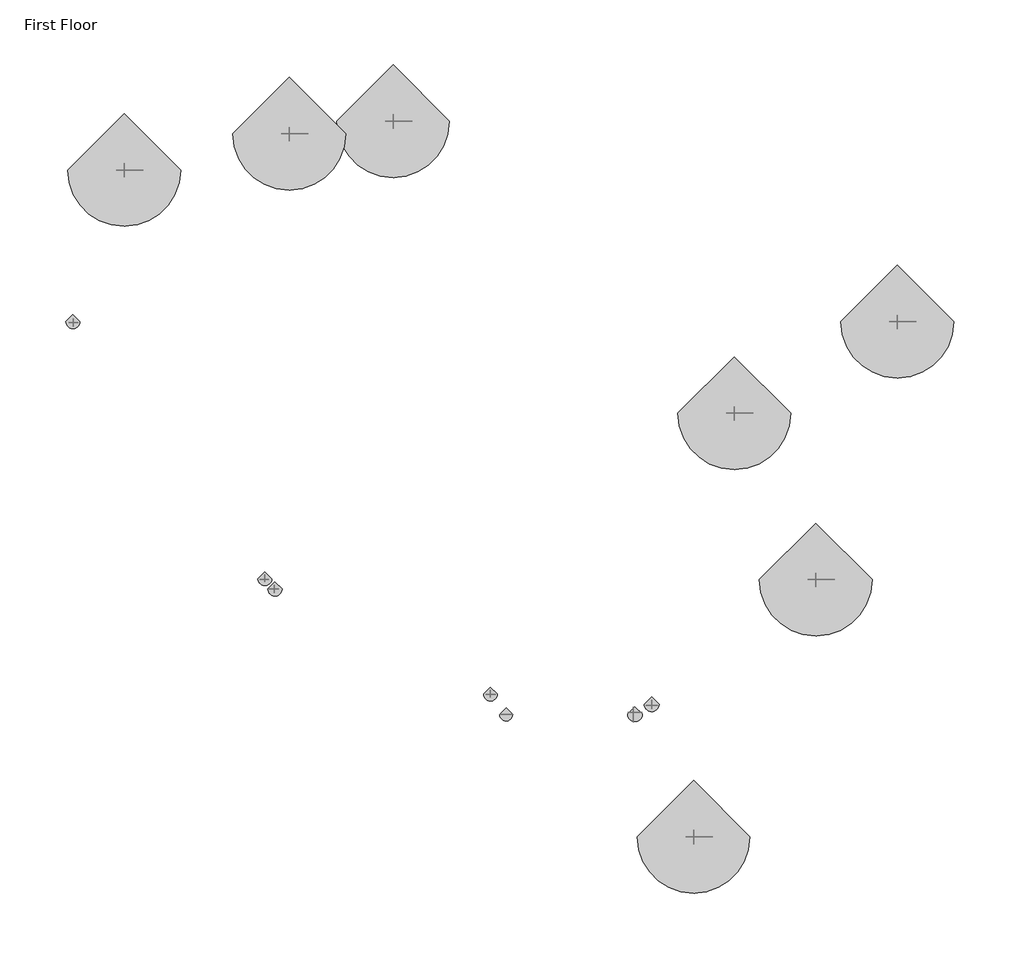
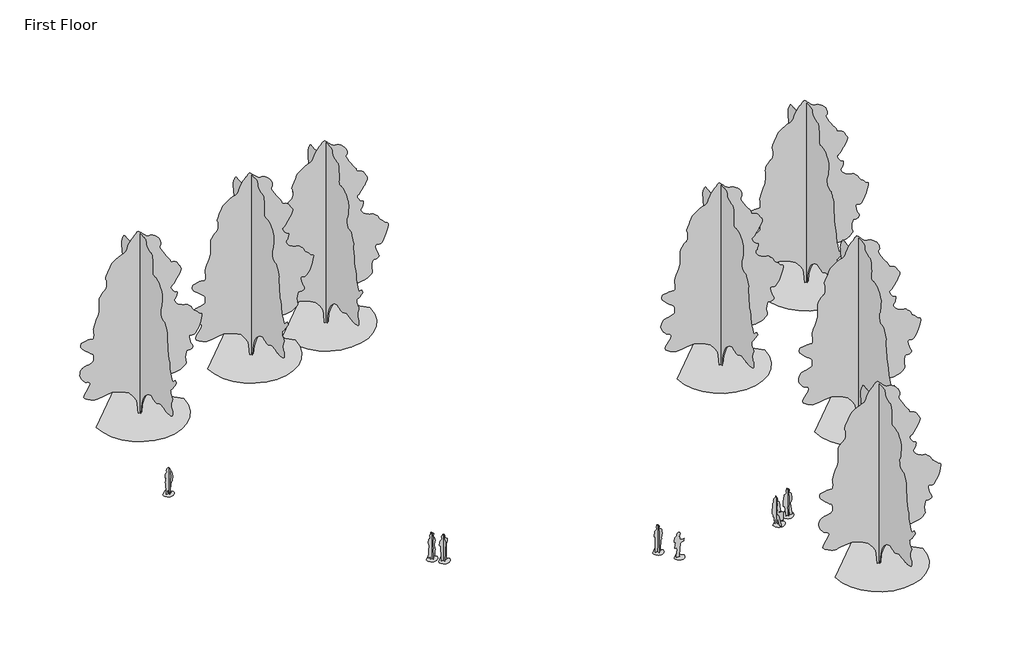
# One storey, incomplete: 7 geographic elements, 7 proxies.
"""IFC4 building model written with IfcOpenShell, lengths in millimetres."""

from ifc_helpers import new_model, si_unit, origin, place, context, project, spatial, transform, mapped, element, save
from components import m_rpc_female_878ef173, m_rpc_female_2c6db5d7, m_rpc_female_2a7e0e44, m_rpc_female_7b1a36b3, m_rpc_male_e00c4429, m_rpc_male_6f5007d1, m_rpc_male_b993872a, m_rpc_tree_deciduous_lombardy_poplar_12_2_meters_1b309f58

model = new_model("IFC4")

# Units and contexts
model_context = context("Model", 3, world=origin())
ifc_project = project(units=[si_unit("LENGTHUNIT", "METRE", prefix="MILLI")], contexts=[model_context])

# Site, building, storey
site = spatial("IfcSite", under=ifc_project)
building = spatial("IfcBuilding", under=site)
storey = spatial("IfcBuildingStorey", under=building, Name="First Floor", Elevation=0.0)

# Proxies
placement = place(None, origin())
m_rpc_female_shape = m_rpc_female_878ef173(model_context)
element("IfcBuildingElementProxy", 1, Name="M_RPC Female : Cathy", ObjectType="M_RPC Female : Cathy", at=placement, inside=storey, context=model_context, shape_type="MappedRepresentation", body=[
    mapped(m_rpc_female_shape, transform((8481.5823524, -11988.1148653, 0.0), x_axis=(1.0, 0.0, 0.0), y_axis=(0.0, 1.0, 0.0), z_axis=(0.0, 0.0, 1.0))),
])
m_rpc_female_2_shape = m_rpc_female_2c6db5d7(model_context)
element("IfcBuildingElementProxy", 2, Name="M_RPC Female : Tina", ObjectType="M_RPC Female : Tina", at=placement, inside=storey, context=model_context, shape_type="MappedRepresentation", body=[
    mapped(m_rpc_female_2_shape, transform((-9676.5223518, -5320.1148653, 0.0), x_axis=(1.0, 0.0, 0.0), y_axis=(0.0, 1.0, 0.0), z_axis=(0.0, 0.0, 1.0))),
])
m_rpc_female_3_shape = m_rpc_female_2a7e0e44(model_context)
element("IfcBuildingElementProxy", 3, Name="M_RPC Female : YinYin", ObjectType="M_RPC Female : YinYin", at=placement, inside=storey, context=model_context, shape_type="MappedRepresentation", body=[
    mapped(m_rpc_female_3_shape, transform((-19094.4724393, 7299.8851347, 0.0), x_axis=(1.0, 0.0, 0.0), y_axis=(0.0, 1.0, 0.0), z_axis=(0.0, 0.0, 1.0))),
])
m_rpc_female_4_shape = m_rpc_female_7b1a36b3(model_context)
element("IfcBuildingElementProxy", 4, Name="M_RPC Female : Lisa", ObjectType="M_RPC Female : Lisa", at=placement, inside=storey, context=model_context, shape_type="MappedRepresentation", body=[
    mapped(m_rpc_female_4_shape, transform((2161.2861855, -11988.1148653, 0.0), x_axis=(1.0, 0.0, 0.0), y_axis=(0.0, 1.0, 0.0), z_axis=(0.0, 0.0, 1.0))),
])
m_rpc_male_shape = m_rpc_male_e00c4429(model_context)
element("IfcBuildingElementProxy", 5, Name="M_RPC Male : Dwayne", ObjectType="M_RPC Male : Dwayne", at=placement, inside=storey, context=model_context, shape_type="MappedRepresentation", body=[
    mapped(m_rpc_male_shape, transform((1405.1255493, -10988.1148653, 0.0), x_axis=(1.0, 0.0, 0.0), y_axis=(0.0, 1.0, 0.0), z_axis=(0.0, 0.0, 1.0))),
])
m_rpc_male_2_shape = m_rpc_male_6f5007d1(model_context)
element("IfcBuildingElementProxy", 6, Name="M_RPC Male : Alex", ObjectType="M_RPC Male : Alex", at=placement, inside=storey, context=model_context, shape_type="MappedRepresentation", body=[
    mapped(m_rpc_male_2_shape, transform((9302.803305, -11488.1148653, 0.0), x_axis=(1.0, 0.0, 0.0), y_axis=(0.0, 1.0, 0.0), z_axis=(0.0, 0.0, 1.0))),
])
m_rpc_male_3_shape = m_rpc_male_b993872a(model_context)
element("IfcBuildingElementProxy", 7, Name="M_RPC Male : Jay", ObjectType="M_RPC Male : Jay", at=placement, inside=storey, context=model_context, shape_type="MappedRepresentation", body=[
    mapped(m_rpc_male_3_shape, transform((-9179.7142965, -5820.1148653, 0.0), x_axis=(1.0, 0.0, 0.0), y_axis=(0.0, 1.0, 0.0), z_axis=(0.0, 0.0, 1.0))),
])

# Geographic elements
m_rpc_tree_deciduous_lombardy_poplar_12_2_meters_shape = m_rpc_tree_deciduous_lombardy_poplar_12_2_meters_1b309f58(model_context)
element("IfcGeographicElement", 8, ObjectType="M_RPC Tree - Deciduous : Lombardy Poplar - 12.2 Meters", at=placement, inside=storey, context=model_context, shape_type="MappedRepresentation", body=[
    mapped(m_rpc_tree_deciduous_lombardy_poplar_12_2_meters_shape, transform((-16579.1044048, 14747.8851347, 0.0), x_axis=(1.0, 0.0, 0.0), y_axis=(0.0, 1.0, 0.0), z_axis=(0.0, 0.0, 1.0))),
])
element("IfcGeographicElement", 9, ObjectType="M_RPC Tree - Deciduous : Lombardy Poplar - 12.2 Meters", at=placement, inside=storey, context=model_context, shape_type="MappedRepresentation", body=[
    mapped(m_rpc_tree_deciduous_lombardy_poplar_12_2_meters_shape, transform((-8479.1044048, 16527.8851347, 0.0), x_axis=(1.0, 0.0, 0.0), y_axis=(0.0, 1.0, 0.0), z_axis=(0.0, 0.0, 1.0))),
])
element("IfcGeographicElement", 10, ObjectType="M_RPC Tree - Deciduous : Lombardy Poplar - 12.2 Meters", at=placement, inside=storey, context=model_context, shape_type="MappedRepresentation", body=[
    mapped(m_rpc_tree_deciduous_lombardy_poplar_12_2_meters_shape, transform((-3386.4044048, 17147.8851347, 0.0), x_axis=(1.0, 0.0, 0.0), y_axis=(0.0, 1.0, 0.0), z_axis=(0.0, 0.0, 1.0))),
])
element("IfcGeographicElement", 11, ObjectType="M_RPC Tree - Deciduous : Lombardy Poplar - 12.2 Meters", at=placement, inside=storey, context=model_context, shape_type="MappedRepresentation", body=[
    mapped(m_rpc_tree_deciduous_lombardy_poplar_12_2_meters_shape, transform((21356.8955952, 7299.8851347, 0.0), x_axis=(1.0, 0.0, 0.0), y_axis=(0.0, 1.0, 0.0), z_axis=(0.0, 0.0, 1.0))),
])
element("IfcGeographicElement", 12, ObjectType="M_RPC Tree - Deciduous : Lombardy Poplar - 12.2 Meters", at=placement, inside=storey, context=model_context, shape_type="MappedRepresentation", body=[
    mapped(m_rpc_tree_deciduous_lombardy_poplar_12_2_meters_shape, transform((13356.8955952, 2804.5851347, 0.0), x_axis=(1.0, 0.0, 0.0), y_axis=(0.0, 1.0, 0.0), z_axis=(0.0, 0.0, 1.0))),
])
element("IfcGeographicElement", 13, ObjectType="M_RPC Tree - Deciduous : Lombardy Poplar - 12.2 Meters", at=placement, inside=storey, context=model_context, shape_type="MappedRepresentation", body=[
    mapped(m_rpc_tree_deciduous_lombardy_poplar_12_2_meters_shape, transform((17356.8955952, -5368.1148653, 0.0), x_axis=(1.0, 0.0, 0.0), y_axis=(0.0, 1.0, 0.0), z_axis=(0.0, 0.0, 1.0))),
])
element("IfcGeographicElement", 14, ObjectType="M_RPC Tree - Deciduous : Lombardy Poplar - 12.2 Meters", at=placement, inside=storey, context=model_context, shape_type="MappedRepresentation", body=[
    mapped(m_rpc_tree_deciduous_lombardy_poplar_12_2_meters_shape, transform((11356.8955952, -17988.1148653, 0.0), x_axis=(1.0, 0.0, 0.0), y_axis=(0.0, 1.0, 0.0), z_axis=(0.0, 0.0, 1.0))),
])

save(model, "model.ifc")
